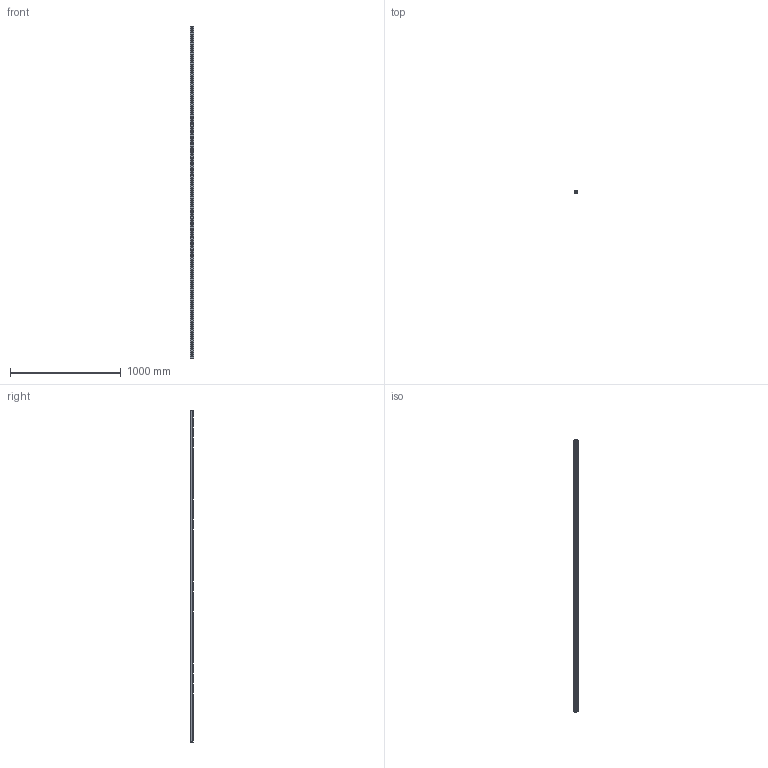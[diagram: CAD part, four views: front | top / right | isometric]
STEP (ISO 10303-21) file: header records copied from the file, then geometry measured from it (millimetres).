
FILE_DESCRIPTION (( 'STEP AP203' ), '1' );
FILE_NAME ('Linearführung_-_LFS-12-10 - L=2996.step', '2011-07-19T09:15:45', ( 'HI' ), ( '' ), 'SwSTEP 2.0', 'SolidWorks 2010', '' );
FILE_SCHEMA (( 'CONFIG_CONTROL_DESIGN' ));
Products named in the file (1): Linearführung_-_LFS-12-10 - L=2996
Bounding box: 36 x 24.5 x 2996 mm (x, y, z)
Volume: 1929939.7 mm3; surface area: 739851.4 mm2
Topology: 1 solids, 1 shells, 1322 faces, 3492 edges, 2286 vertices
Faces by surface type: cylinder 625, plane 457, cone 240
Entity records: 55271 total; most frequent: CARTESIAN_POINT 22149, ORIENTED_EDGE 6984, DIRECTION 6680, EDGE_CURVE 3492, AXIS2_PLACEMENT_3D 2585, VERTEX_POINT 2286, EDGE_LOOP 1804, LINE 1510
